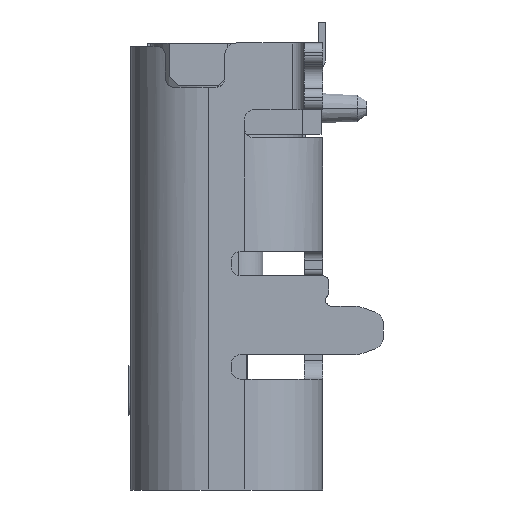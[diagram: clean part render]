
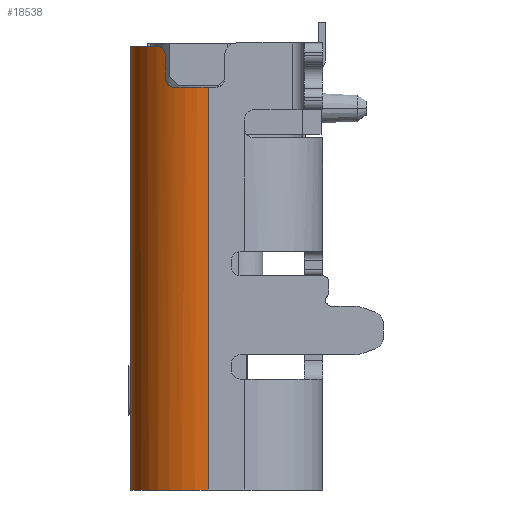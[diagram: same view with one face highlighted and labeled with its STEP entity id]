
A CAD part, left-side view. The second image highlights one B-rep face of the part: STEP entity #18538.
In plain terms, the highlighted cylindrical face has radius 1.28 mm (diameter 2.56 mm), a partial arc.
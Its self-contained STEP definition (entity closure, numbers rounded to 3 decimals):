
#26 = VECTOR ( 'NONE', #19319, 1000. ) ;
#644 = DIRECTION ( 'NONE',  ( 0., 1., 0. ) ) ;
#782 = DIRECTION ( 'NONE',  ( 0., 0., 1. ) ) ;
#865 = CARTESIAN_POINT ( 'NONE',  ( -64.258, 1.005, -63.747 ) ) ;
#1228 = CARTESIAN_POINT ( 'NONE',  ( -64.266, 0.994, -64.193 ) ) ;
#2523 = EDGE_CURVE ( 'NONE', #26837, #21412, #13725, .T. ) ;
#2935 = VERTEX_POINT ( 'NONE', #13217 ) ;
#3101 = CARTESIAN_POINT ( 'NONE',  ( -64.203, 1.082, -63.625 ) ) ;
#3325 = CARTESIAN_POINT ( 'NONE',  ( -64.307, 0.925, -64.267 ) ) ;
#4688 = LINE ( 'NONE', #17452, #8945 ) ;
#5200 = CARTESIAN_POINT ( 'NONE',  ( -64.257, 1.007, -63.727 ) ) ;
#5822 = CARTESIAN_POINT ( 'NONE',  ( -64.258, 1.005, -64.133 ) ) ;
#6212 = DIRECTION ( 'NONE',  ( 0., -1., 0. ) ) ;
#6703 = DIRECTION ( 'NONE',  ( 0., 0., 1. ) ) ;
#6910 = DIRECTION ( 'NONE',  ( -1., 0., 0. ) ) ;
#7534 = CARTESIAN_POINT ( 'NONE',  ( -64.276, 0.978, -64.222 ) ) ;
#7669 = CARTESIAN_POINT ( 'NONE',  ( -64.343, 0.855, -64.283 ) ) ;
#8170 = CYLINDRICAL_SURFACE ( 'NONE', #12508, 1.28 ) ;
#8945 = VECTOR ( 'NONE', #21806, 1000. ) ;
#9247 = ORIENTED_EDGE ( 'NONE', *, *, #21746, .F. ) ;
#9633 = CARTESIAN_POINT ( 'NONE',  ( -64.258, 1.005, -64.133 ) ) ;
#9773 = CARTESIAN_POINT ( 'NONE',  ( -64.326, 0.891, -64.28 ) ) ;
#9827 = CARTESIAN_POINT ( 'NONE',  ( -64.143, 1.155, -63.608 ) ) ;
#10087 = EDGE_CURVE ( 'NONE', #20972, #2935, #13215, .T. ) ;
#10148 = VERTEX_POINT ( 'NONE', #22891 ) ;
#10840 = VERTEX_POINT ( 'NONE', #24206 ) ;
#10880 = ORIENTED_EDGE ( 'NONE', *, *, #10087, .T. ) ;
#10960 = CIRCLE ( 'NONE', #14090, 1.28 ) ;
#10969 = CARTESIAN_POINT ( 'NONE',  ( -63.19, 1.58, -63.608 ) ) ;
#11145 = AXIS2_PLACEMENT_3D ( 'NONE', #17487, #782, #644 ) ;
#11478 = AXIS2_PLACEMENT_3D ( 'NONE', #19265, #13344, #6910 ) ;
#12227 = CARTESIAN_POINT ( 'NONE',  ( -63.19, 1.58, -70.908 ) ) ;
#12508 = AXIS2_PLACEMENT_3D ( 'NONE', #25433, #16728, #6212 ) ;
#13215 = B_SPLINE_CURVE_WITH_KNOTS ( 'NONE', 3,
 ( #17843, #865, #5200, #26407, #13752, #17562, #3101, #26128, #24028, #9827 ),
 .UNSPECIFIED., .F., .F.,
 ( 4, 1, 1, 1, 1, 1, 1, 4 ),
 ( 0., 0.143, 0.286, 0.429, 0.571, 0.714, 0.857, 1. ),
 .UNSPECIFIED. ) ;
#13217 = CARTESIAN_POINT ( 'NONE',  ( -64.143, 1.155, -63.608 ) ) ;
#13344 = DIRECTION ( 'NONE',  ( 0., 0., -1. ) ) ;
#13725 = CIRCLE ( 'NONE', #11478, 1.28 ) ;
#13752 = CARTESIAN_POINT ( 'NONE',  ( -64.24, 1.032, -63.67 ) ) ;
#13926 = EDGE_CURVE ( 'NONE', #26159, #14244, #14429, .T. ) ;
#14090 = AXIS2_PLACEMENT_3D ( 'NONE', #17357, #6703, #27483 ) ;
#14244 = VERTEX_POINT ( 'NONE', #26879 ) ;
#14373 = ORIENTED_EDGE ( 'NONE', *, *, #19439, .T. ) ;
#14429 = B_SPLINE_CURVE_WITH_KNOTS ( 'NONE', 3,
 ( #9633, #24669, #26764, #1228, #7534, #16089, #3325, #9773, #18339, #7669 ),
 .UNSPECIFIED., .F., .F.,
 ( 4, 1, 1, 1, 1, 1, 1, 4 ),
 ( 0., 0.143, 0.286, 0.429, 0.571, 0.714, 0.857, 1. ),
 .UNSPECIFIED. ) ;
#14492 = ORIENTED_EDGE ( 'NONE', *, *, #17898, .F. ) ;
#14832 = ORIENTED_EDGE ( 'NONE', *, *, #18325, .T. ) ;
#15042 = LINE ( 'NONE', #10969, #18461 ) ;
#15673 = EDGE_LOOP ( 'NONE', ( #9247, #15678, #14832, #10880, #14492, #21128, #19372, #14373 ) ) ;
#15678 = ORIENTED_EDGE ( 'NONE', *, *, #13926, .F. ) ;
#16089 = CARTESIAN_POINT ( 'NONE',  ( -64.29, 0.955, -64.247 ) ) ;
#16728 = DIRECTION ( 'NONE',  ( 0., 0., 1. ) ) ;
#17357 = CARTESIAN_POINT ( 'NONE',  ( -63.19, 0.3, -64.283 ) ) ;
#17452 = CARTESIAN_POINT ( 'NONE',  ( -64.258, 1.005, -64.133 ) ) ;
#17487 = CARTESIAN_POINT ( 'NONE',  ( -63.19, 0.3, -63.608 ) ) ;
#17562 = CARTESIAN_POINT ( 'NONE',  ( -64.225, 1.054, -63.645 ) ) ;
#17843 = CARTESIAN_POINT ( 'NONE',  ( -64.258, 1.005, -63.758 ) ) ;
#17898 = EDGE_CURVE ( 'NONE', #10840, #2935, #23266, .T. ) ;
#18325 = EDGE_CURVE ( 'NONE', #26159, #20972, #4688, .T. ) ;
#18339 = CARTESIAN_POINT ( 'NONE',  ( -64.338, 0.867, -64.283 ) ) ;
#18461 = VECTOR ( 'NONE', #21533, 1000. ) ;
#18538 = ADVANCED_FACE ( 'NONE', ( #27400 ), #8170, .T. ) ;
#19265 = CARTESIAN_POINT ( 'NONE',  ( -63.19, 0.3, -70.908 ) ) ;
#19319 = DIRECTION ( 'NONE',  ( 0., 0., 1. ) ) ;
#19372 = ORIENTED_EDGE ( 'NONE', *, *, #2523, .F. ) ;
#19439 = EDGE_CURVE ( 'NONE', #26837, #10148, #24458, .T. ) ;
#20895 = CARTESIAN_POINT ( 'NONE',  ( -64.47, 0.3, -70.908 ) ) ;
#20972 = VERTEX_POINT ( 'NONE', #25193 ) ;
#21128 = ORIENTED_EDGE ( 'NONE', *, *, #25102, .T. ) ;
#21412 = VERTEX_POINT ( 'NONE', #12227 ) ;
#21533 = DIRECTION ( 'NONE',  ( 0., 0., -1. ) ) ;
#21578 = CARTESIAN_POINT ( 'NONE',  ( -64.47, 0.3, -70.908 ) ) ;
#21746 = EDGE_CURVE ( 'NONE', #14244, #10148, #10960, .T. ) ;
#21806 = DIRECTION ( 'NONE',  ( 0., 0., 1. ) ) ;
#22891 = CARTESIAN_POINT ( 'NONE',  ( -64.47, 0.3, -64.283 ) ) ;
#23266 = CIRCLE ( 'NONE', #11145, 1.28 ) ;
#24028 = CARTESIAN_POINT ( 'NONE',  ( -64.155, 1.142, -63.608 ) ) ;
#24206 = CARTESIAN_POINT ( 'NONE',  ( -63.19, 1.58, -63.608 ) ) ;
#24458 = LINE ( 'NONE', #21578, #26 ) ;
#24669 = CARTESIAN_POINT ( 'NONE',  ( -64.258, 1.005, -64.143 ) ) ;
#25102 = EDGE_CURVE ( 'NONE', #10840, #21412, #15042, .T. ) ;
#25193 = CARTESIAN_POINT ( 'NONE',  ( -64.258, 1.005, -63.758 ) ) ;
#25433 = CARTESIAN_POINT ( 'NONE',  ( -63.19, 0.3, -60.203 ) ) ;
#26128 = CARTESIAN_POINT ( 'NONE',  ( -64.176, 1.116, -63.611 ) ) ;
#26159 = VERTEX_POINT ( 'NONE', #5822 ) ;
#26407 = CARTESIAN_POINT ( 'NONE',  ( -64.251, 1.016, -63.698 ) ) ;
#26764 = CARTESIAN_POINT ( 'NONE',  ( -64.26, 1.003, -64.163 ) ) ;
#26837 = VERTEX_POINT ( 'NONE', #20895 ) ;
#26879 = CARTESIAN_POINT ( 'NONE',  ( -64.343, 0.855, -64.283 ) ) ;
#27400 = FACE_OUTER_BOUND ( 'NONE', #15673, .T. ) ;
#27483 = DIRECTION ( 'NONE',  ( -0.901, 0.434, 0. ) ) ;
